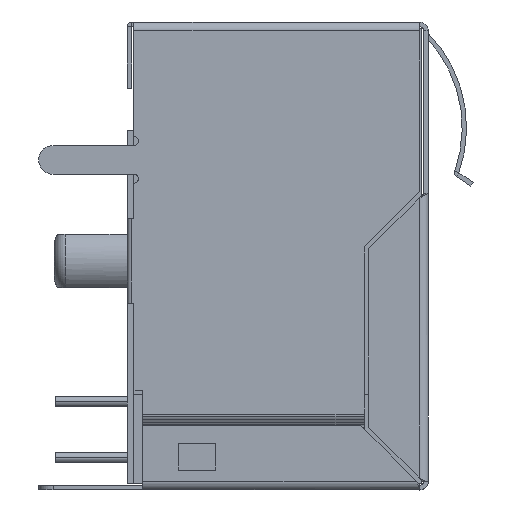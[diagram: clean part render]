
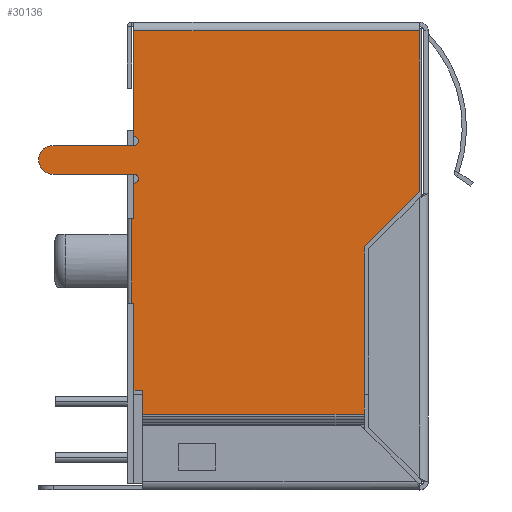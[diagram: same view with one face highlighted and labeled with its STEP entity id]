
A CAD part, left-side view. The second image highlights one B-rep face of the part: STEP entity #30136.
In plain terms, the highlighted planar face has unit normal (-1, 0, 0) as drawn and (1, 0, 0) by its records, which use the part's own axes.
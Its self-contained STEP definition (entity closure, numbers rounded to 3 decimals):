
#23973=DIRECTION('',(0.,1.,0.));
#23974=VECTOR('',#23973,12.9);
#23975=CARTESIAN_POINT('',(29.45,-6.65,-0.2));
#23976=LINE('',#23975,#23974);
#24095=DIRECTION('',(0.,0.,1.));
#24096=VECTOR('',#24095,1.085);
#24097=CARTESIAN_POINT('',(29.45,-6.25,-17.535));
#24098=LINE('',#24097,#24096);
#24099=DIRECTION('',(0.,-1.,0.));
#24100=VECTOR('',#24099,0.4);
#24101=CARTESIAN_POINT('',(29.45,-6.25,-16.45));
#24102=LINE('',#24101,#24100);
#24103=DIRECTION('',(0.,0.,1.));
#24104=VECTOR('',#24103,3.95);
#24105=CARTESIAN_POINT('',(29.45,-6.65,-16.45));
#24106=LINE('',#24105,#24104);
#24107=DIRECTION('',(0.,-1.,0.));
#24108=VECTOR('',#24107,0.1);
#24109=CARTESIAN_POINT('',(29.45,-6.65,-12.5));
#24110=LINE('',#24109,#24108);
#24111=DIRECTION('',(0.,1.,0.));
#24112=VECTOR('',#24111,0.1);
#24113=CARTESIAN_POINT('',(29.45,-6.75,-8.7));
#24114=LINE('',#24113,#24112);
#24115=DIRECTION('',(0.,0.,1.));
#24116=VECTOR('',#24115,1.62);
#24117=CARTESIAN_POINT('',(29.45,-6.65,-8.7));
#24118=LINE('',#24117,#24116);
#24119=CARTESIAN_POINT('',(29.45,-6.65,-6.88));
#24120=DIRECTION('',(-1.,0.,0.));
#24121=DIRECTION('',(0.,0.,1.));
#24122=AXIS2_PLACEMENT_3D('',#24119,#24120,#24121);
#24124=DIRECTION('',(0.,-1.,0.));
#24125=VECTOR('',#24124,3.65);
#24126=CARTESIAN_POINT('',(29.45,-6.65,-6.68));
#24127=LINE('',#24126,#24125);
#24128=CARTESIAN_POINT('',(29.45,-10.3,-6.03));
#24129=DIRECTION('',(-1.,0.,0.));
#24130=DIRECTION('',(0.,0.,-1.));
#24131=AXIS2_PLACEMENT_3D('',#24128,#24129,#24130);
#24133=DIRECTION('',(0.,1.,0.));
#24134=VECTOR('',#24133,3.65);
#24135=CARTESIAN_POINT('',(29.45,-10.3,-5.38));
#24136=LINE('',#24135,#24134);
#24137=CARTESIAN_POINT('',(29.45,-6.65,-5.18));
#24138=DIRECTION('',(-1.,0.,0.));
#24139=DIRECTION('',(0.,0.,1.));
#24140=AXIS2_PLACEMENT_3D('',#24137,#24138,#24139);
#24142=DIRECTION('',(0.,0.,1.));
#24143=VECTOR('',#24142,4.78);
#24144=CARTESIAN_POINT('',(29.45,-6.65,-4.98));
#24145=LINE('',#24144,#24143);
#24146=DIRECTION('',(0.,-0.707,-0.707));
#24147=VECTOR('',#24146,3.536);
#24148=CARTESIAN_POINT('',(29.45,6.25,-7.467));
#24149=LINE('',#24148,#24147);
#24150=DIRECTION('',(0.,0.,-1.));
#24151=VECTOR('',#24150,7.083);
#24152=CARTESIAN_POINT('',(29.45,3.75,-9.967));
#24153=LINE('',#24152,#24151);
#24163=DIRECTION('',(0.,0.,-1.));
#24164=VECTOR('',#24163,3.8);
#24165=CARTESIAN_POINT('',(29.45,-6.75,-8.7));
#24166=LINE('',#24165,#24164);
#24240=DIRECTION('',(0.,0.,1.));
#24241=VECTOR('',#24240,7.267);
#24242=CARTESIAN_POINT('',(29.45,6.25,-7.467));
#24243=LINE('',#24242,#24241);
#24256=DIRECTION('',(0.,0.,-1.));
#24257=VECTOR('',#24256,0.485);
#24258=CARTESIAN_POINT('',(29.45,3.75,-17.05));
#24259=LINE('',#24258,#24257);
#24287=DIRECTION('',(0.,1.,0.));
#24288=VECTOR('',#24287,10.);
#24289=CARTESIAN_POINT('',(29.45,-6.25,-17.535));
#24290=LINE('',#24289,#24288);
#28858=CARTESIAN_POINT('',(29.45,6.25,-7.467));
#28859=CARTESIAN_POINT('',(29.45,3.75,-9.967));
#28860=VERTEX_POINT('',#28858);
#28861=VERTEX_POINT('',#28859);
#28862=CARTESIAN_POINT('',(29.45,3.75,-17.05));
#28863=VERTEX_POINT('',#28862);
#28870=CARTESIAN_POINT('',(29.45,3.75,-17.535));
#28871=VERTEX_POINT('',#28870);
#28926=CARTESIAN_POINT('',(29.45,-6.65,-0.2));
#28928=VERTEX_POINT('',#28926);
#28972=CARTESIAN_POINT('',(29.45,6.25,-0.2));
#28973=VERTEX_POINT('',#28972);
#29002=CARTESIAN_POINT('',(29.45,-6.65,-8.7));
#29004=VERTEX_POINT('',#29002);
#29006=CARTESIAN_POINT('',(29.45,-6.65,-12.5));
#29008=VERTEX_POINT('',#29006);
#29026=CARTESIAN_POINT('',(29.45,-6.75,-8.7));
#29027=VERTEX_POINT('',#29026);
#29028=CARTESIAN_POINT('',(29.45,-6.75,-12.5));
#29029=VERTEX_POINT('',#29028);
#29038=CARTESIAN_POINT('',(29.45,-10.3,-6.68));
#29039=CARTESIAN_POINT('',(29.45,-10.3,-5.38));
#29040=VERTEX_POINT('',#29038);
#29041=VERTEX_POINT('',#29039);
#29070=CARTESIAN_POINT('',(29.45,-6.65,-4.98));
#29071=CARTESIAN_POINT('',(29.45,-6.65,-5.38));
#29072=VERTEX_POINT('',#29070);
#29073=VERTEX_POINT('',#29071);
#29074=CARTESIAN_POINT('',(29.45,-6.65,-6.68));
#29075=CARTESIAN_POINT('',(29.45,-6.65,-7.08));
#29076=VERTEX_POINT('',#29074);
#29077=VERTEX_POINT('',#29075);
#29138=CARTESIAN_POINT('',(29.45,-6.25,-17.535));
#29139=CARTESIAN_POINT('',(29.45,-6.25,-16.45));
#29140=VERTEX_POINT('',#29138);
#29141=VERTEX_POINT('',#29139);
#29142=CARTESIAN_POINT('',(29.45,-6.65,-16.45));
#29143=VERTEX_POINT('',#29142);
#30099=CARTESIAN_POINT('',(29.45,3.185,0.2));
#30100=DIRECTION('',(-1.,0.,0.));
#30101=DIRECTION('',(0.,1.,0.));
#30102=AXIS2_PLACEMENT_3D('',#30099,#30100,#30101);
#30103=PLANE('',#30102);
#30104=ORIENTED_EDGE('',*,*,#30050,.T.);
#30105=ORIENTED_EDGE('',*,*,#30065,.T.);
#30106=ORIENTED_EDGE('',*,*,#30080,.T.);
#30107=ORIENTED_EDGE('',*,*,#30090,.T.);
#30109=ORIENTED_EDGE('',*,*,#30108,.F.);
#30111=ORIENTED_EDGE('',*,*,#30110,.T.);
#30112=ORIENTED_EDGE('',*,*,#29976,.T.);
#30114=ORIENTED_EDGE('',*,*,#30113,.F.);
#30116=ORIENTED_EDGE('',*,*,#30115,.T.);
#30118=ORIENTED_EDGE('',*,*,#30117,.T.);
#30120=ORIENTED_EDGE('',*,*,#30119,.T.);
#30121=ORIENTED_EDGE('',*,*,#29993,.F.);
#30122=ORIENTED_EDGE('',*,*,#29964,.T.);
#30123=ORIENTED_EDGE('',*,*,#29903,.T.);
#30125=ORIENTED_EDGE('',*,*,#30124,.F.);
#30127=ORIENTED_EDGE('',*,*,#30126,.T.);
#30129=ORIENTED_EDGE('',*,*,#30128,.T.);
#30131=ORIENTED_EDGE('',*,*,#30130,.T.);
#30133=ORIENTED_EDGE('',*,*,#30132,.F.);
#30134=EDGE_LOOP('',(#30104,#30105,#30106,#30107,#30109,#30111,#30112,#30114,
#30116,#30118,#30120,#30121,#30122,#30123,#30125,#30127,#30129,#30131,#30133));
#30135=FACE_OUTER_BOUND('',#30134,.F.);
#30136=ADVANCED_FACE('',(#30135),#30103,.F.);
#24123=CIRCLE('',#24122,0.2);
#24132=CIRCLE('',#24131,0.65);
#24141=CIRCLE('',#24140,0.2);
#29903=EDGE_CURVE('',#28928,#28973,#23976,.T.);
#29964=EDGE_CURVE('',#29072,#28928,#24145,.T.);
#29976=EDGE_CURVE('',#29004,#29077,#24118,.T.);
#29993=EDGE_CURVE('',#29072,#29073,#24141,.T.);
#30050=EDGE_CURVE('',#29140,#29141,#24098,.T.);
#30065=EDGE_CURVE('',#29141,#29143,#24102,.T.);
#30080=EDGE_CURVE('',#29143,#29008,#24106,.T.);
#30090=EDGE_CURVE('',#29008,#29029,#24110,.T.);
#30108=EDGE_CURVE('',#29027,#29029,#24166,.T.);
#30110=EDGE_CURVE('',#29027,#29004,#24114,.T.);
#30113=EDGE_CURVE('',#29076,#29077,#24123,.T.);
#30115=EDGE_CURVE('',#29076,#29040,#24127,.T.);
#30117=EDGE_CURVE('',#29040,#29041,#24132,.T.);
#30119=EDGE_CURVE('',#29041,#29073,#24136,.T.);
#30124=EDGE_CURVE('',#28860,#28973,#24243,.T.);
#30126=EDGE_CURVE('',#28860,#28861,#24149,.T.);
#30128=EDGE_CURVE('',#28861,#28863,#24153,.T.);
#30130=EDGE_CURVE('',#28863,#28871,#24259,.T.);
#30132=EDGE_CURVE('',#29140,#28871,#24290,.T.);
